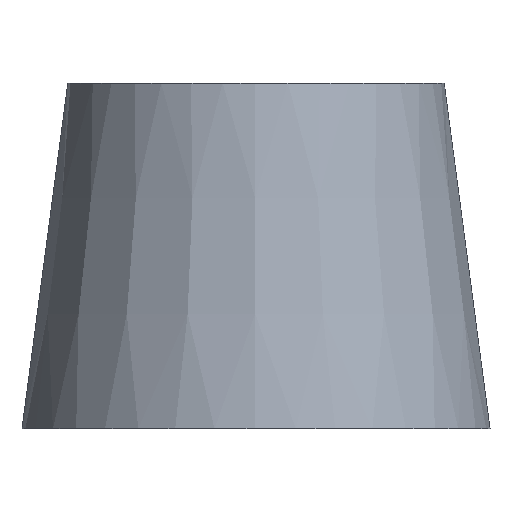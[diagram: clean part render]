
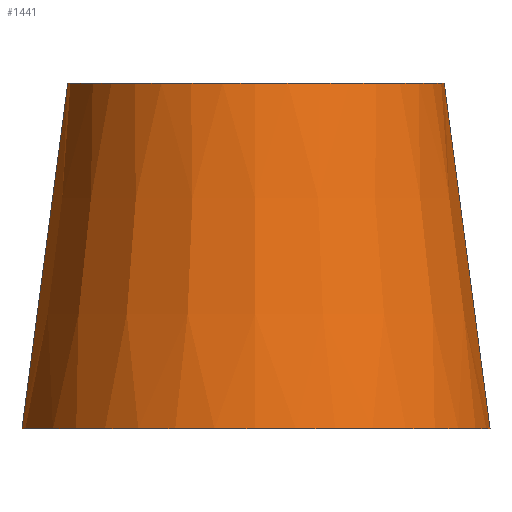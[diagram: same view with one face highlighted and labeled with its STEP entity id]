
A CAD part, front view. The second image highlights one B-rep face of the part: STEP entity #1441.
In plain terms, the highlighted conical face has half-angle 7.539 degrees and reference radius 39.992 mm.
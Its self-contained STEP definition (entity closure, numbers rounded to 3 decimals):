
#20=CONICAL_SURFACE('',#1561,39.992,0.132);
#202=FACE_OUTER_BOUND('',#288,.T.);
#288=EDGE_LOOP('',(#1207,#1208,#1209,#1210));
#344=CIRCLE('',#1516,115.);
#364=CIRCLE('',#1562,92.5);
#466=LINE('',#3056,#572);
#467=LINE('',#3059,#573);
#572=VECTOR('',#1870,1.);
#573=VECTOR('',#1873,1.);
#664=VERTEX_POINT('',#2692);
#665=VERTEX_POINT('',#2693);
#711=VERTEX_POINT('',#3055);
#712=VERTEX_POINT('',#3057);
#819=EDGE_CURVE('',#664,#665,#344,.T.);
#902=EDGE_CURVE('',#711,#665,#466,.T.);
#903=EDGE_CURVE('',#712,#711,#364,.T.);
#904=EDGE_CURVE('',#664,#712,#467,.T.);
#1207=ORIENTED_EDGE('',*,*,#902,.F.);
#1208=ORIENTED_EDGE('',*,*,#903,.F.);
#1209=ORIENTED_EDGE('',*,*,#904,.F.);
#1210=ORIENTED_EDGE('',*,*,#819,.T.);
#1441=ADVANCED_FACE('',(#202),#20,.T.);
#1516=AXIS2_PLACEMENT_3D('',#2694,#1733,#1734);
#1561=AXIS2_PLACEMENT_3D('',#3054,#1868,#1869);
#1562=AXIS2_PLACEMENT_3D('',#3058,#1871,#1872);
#1733=DIRECTION('center_axis',(0.,0.,
1.));
#1734=DIRECTION('ref_axis',(1.,-0.004,0.));
#1868=DIRECTION('center_axis',(0.,0.,-1.));
#1869=DIRECTION('ref_axis',(1.,-0.004,0.));
#1870=DIRECTION('',(0.131,0.,-0.991));
#1871=DIRECTION('center_axis',(0.,0.,1.));
#1872=DIRECTION('ref_axis',(1.,-0.004,0.));
#1873=DIRECTION('',(0.131,0.,0.991));
#2692=CARTESIAN_POINT('',(-114.999,0.423,99.2));
#2693=CARTESIAN_POINT('',(114.999,-0.423,99.2));
#2694=CARTESIAN_POINT('Origin',(0.,0.,
99.2));
#3054=CARTESIAN_POINT('Origin',(0.,0.,665.924));
#3055=CARTESIAN_POINT('',(92.499,-0.341,269.2));
#3056=CARTESIAN_POINT('',(92.499,-0.341,269.2));
#3057=CARTESIAN_POINT('',(-92.499,0.341,269.2));
#3058=CARTESIAN_POINT('Origin',(0.,0.,269.2));
#3059=CARTESIAN_POINT('',(-114.999,0.423,99.2));
